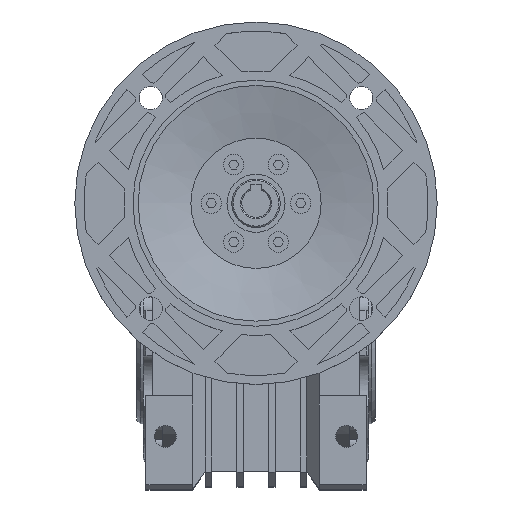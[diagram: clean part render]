
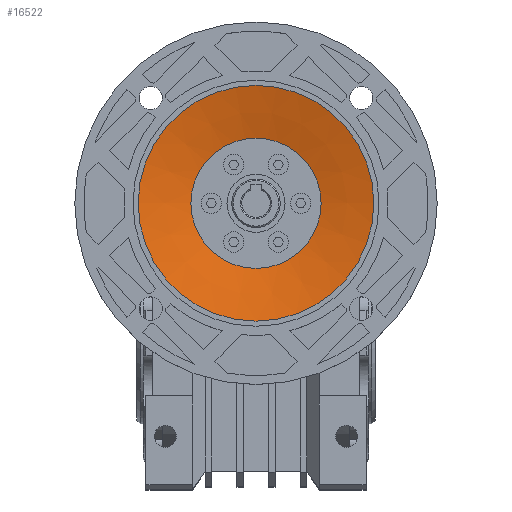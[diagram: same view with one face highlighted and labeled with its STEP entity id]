
A CAD part, top view. The second image highlights one B-rep face of the part: STEP entity #16522.
In plain terms, the highlighted conical face has half-angle 76.458 degrees and reference radius 25.156 mm.
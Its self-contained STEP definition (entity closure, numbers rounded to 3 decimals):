
#119=CONICAL_SURFACE('',#18021,25.156,1.334);
#1659=LINE('',#27497,#3195);
#3195=VECTOR('',#22476,25.156);
#4482=FACE_OUTER_BOUND('',#5477,.T.);
#5477=EDGE_LOOP('',(#14188,#14189,#14190,#14191));
#6083=CIRCLE('',#18008,45.5);
#6090=CIRCLE('',#18022,25.156);
#7546=VERTEX_POINT('',#27473);
#7553=VERTEX_POINT('',#27495);
#9764=EDGE_CURVE('',#7546,#7546,#6083,.T.);
#9772=EDGE_CURVE('',#7553,#7553,#6090,.T.);
#9773=EDGE_CURVE('',#7553,#7546,#1659,.T.);
#14188=ORIENTED_EDGE('',*,*,#9772,.T.);
#14189=ORIENTED_EDGE('',*,*,#9773,.T.);
#14190=ORIENTED_EDGE('',*,*,#9764,.F.);
#14191=ORIENTED_EDGE('',*,*,#9773,.F.);
#16522=ADVANCED_FACE('',(#4482),#119,.F.);
#18008=AXIS2_PLACEMENT_3D('',#27474,#22445,#22446);
#18021=AXIS2_PLACEMENT_3D('',#27494,#22472,#22473);
#18022=AXIS2_PLACEMENT_3D('',#27496,#22474,#22475);
#22445=DIRECTION('center_axis',(0.,0.,
-1.));
#22446=DIRECTION('ref_axis',(-1.,0.,0.));
#22472=DIRECTION('center_axis',(0.,0.,
1.));
#22473=DIRECTION('ref_axis',(1.,0.,0.));
#22474=DIRECTION('center_axis',(0.,0.,
-1.));
#22475=DIRECTION('ref_axis',(-1.,0.,0.));
#22476=DIRECTION('',(-0.972,0.,0.234));
#27473=CARTESIAN_POINT('',(97.263,223.623,194.762));
#27474=CARTESIAN_POINT('Origin',(142.763,223.623,194.762));
#27494=CARTESIAN_POINT('Origin',(142.763,223.623,189.862));
#27495=CARTESIAN_POINT('',(117.607,223.623,189.862));
#27496=CARTESIAN_POINT('Origin',(142.763,223.623,189.862));
#27497=CARTESIAN_POINT('',(117.607,223.623,189.862));
